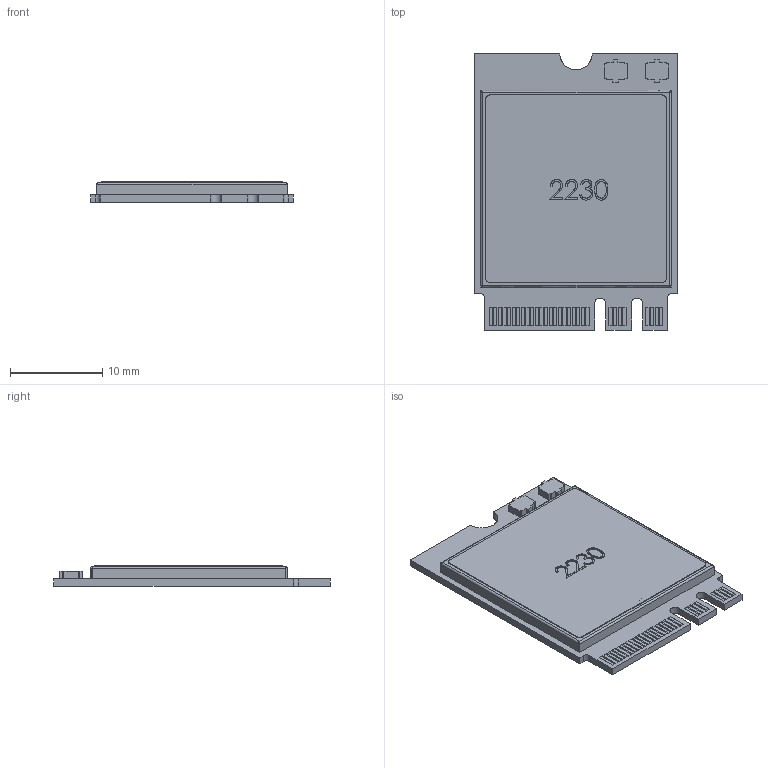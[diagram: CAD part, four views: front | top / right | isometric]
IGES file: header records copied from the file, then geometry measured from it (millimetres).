
Start section: SolidWorks IGES file using analytic representation for surfaces
Global section: file name: M:\000_Mechanical_Design\Program\ThP2230\3D Marketing DRW\ThP2230 3D_MKT_01.IGS; native system: SolidWorks 2015; preprocessor: SolidWorks 2015; author: jmelhorn; date: 170705.094351; units: millimetre
Bounding box: 22 x 30 x 2.24 mm (x, y, z)
Surface area: 3298.2 mm2 (no closed solid volume)
Topology: 0 solids, 0 shells, 474 faces, 3070 edges, 3070 vertices
Faces by surface type: bspline 454, revolution 20
